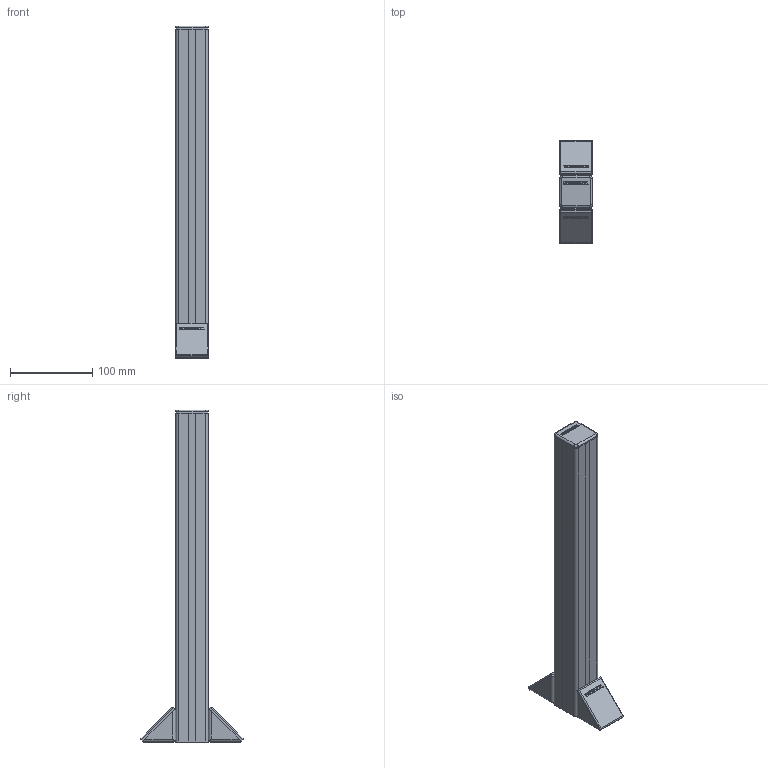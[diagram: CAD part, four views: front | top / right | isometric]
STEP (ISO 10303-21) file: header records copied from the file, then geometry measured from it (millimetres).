
FILE_DESCRIPTION(/* description */ (''),/* implementation_level */ '2;1');
FILE_NAME(/* name */ 'LA-6007-1040-A.stp',/* time_stamp */ '2015-01-28T11:19:36+00:00',/* author */ (''),/* organization */ (''),/* preprocessor_version */ 'ST-DEVELOPER v11',/* originating_system */ 'SIEMENS PLM Software NX 7.5',/* authorisation */ '');
FILE_SCHEMA (('AUTOMOTIVE_DESIGN { 1 0 10303 214 1 1 1 1 }'));
Length unit declared in the file: millimetre
Products named in the file (1): rt13982Avlbc
Bounding box: 40 x 124.77 x 404 mm (x, y, z)
Volume: 724592.7 mm3; surface area: 75168.5 mm2
Topology: 1 solids, 1 shells, 140 faces, 576 edges, 484 vertices
Faces by surface type: plane 96, cylinder 30, bspline 10, cone 4
Entity records: 8224 total; most frequent: CARTESIAN_POINT 2955, ORIENTED_EDGE 1152, DIRECTION 687, EDGE_CURVE 576, VERTEX_POINT 484, B_SPLINE_CURVE_WITH_KNOTS 256, AXIS2_PLACEMENT_3D 236, LINE 215
